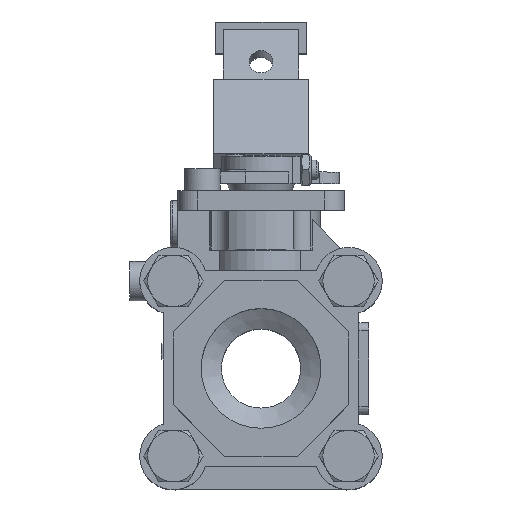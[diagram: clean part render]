
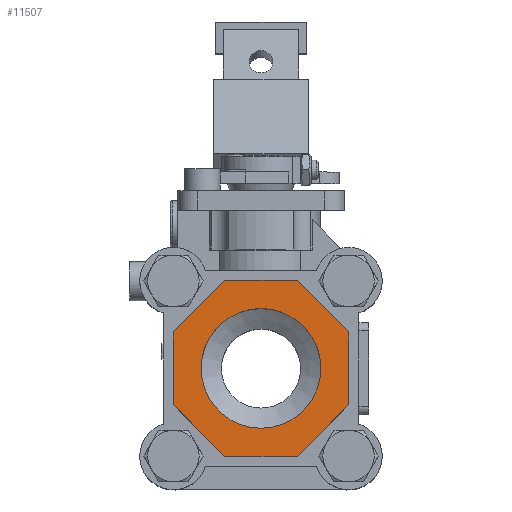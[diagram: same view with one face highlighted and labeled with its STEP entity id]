
A CAD part, top view. The second image highlights one B-rep face of the part: STEP entity #11507.
In plain terms, the highlighted planar face has unit normal (0, 0, 1).
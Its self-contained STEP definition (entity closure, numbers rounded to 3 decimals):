
#372=FACE_BOUND('',#1957,.T.);
#579=PLANE('',#12316);
#1276=FACE_OUTER_BOUND('',#1956,.T.);
#1956=EDGE_LOOP('',(#8953,#8954,#8955,#8956,#8957,#8958,#8959,#8960));
#1957=EDGE_LOOP('',(#8961,#8962));
#2597=CIRCLE('',#12306,15.146);
#2598=CIRCLE('',#12307,15.146);
#3337=LINE('',#18155,#4315);
#3339=LINE('',#18159,#4317);
#3341=LINE('',#18163,#4319);
#3343=LINE('',#18167,#4321);
#3345=LINE('',#18171,#4323);
#3347=LINE('',#18175,#4325);
#3349=LINE('',#18179,#4327);
#3351=LINE('',#18182,#4329);
#4315=VECTOR('',#14211,10.);
#4317=VECTOR('',#14215,10.);
#4319=VECTOR('',#14219,10.);
#4321=VECTOR('',#14223,10.);
#4323=VECTOR('',#14227,10.);
#4325=VECTOR('',#14231,10.);
#4327=VECTOR('',#14235,10.);
#4329=VECTOR('',#14239,10.);
#5355=VERTEX_POINT('',#18146);
#5356=VERTEX_POINT('',#18148);
#5357=VERTEX_POINT('',#18152);
#5358=VERTEX_POINT('',#18154);
#5359=VERTEX_POINT('',#18158);
#5360=VERTEX_POINT('',#18162);
#5361=VERTEX_POINT('',#18166);
#5362=VERTEX_POINT('',#18170);
#5363=VERTEX_POINT('',#18174);
#5364=VERTEX_POINT('',#18178);
#6671=EDGE_CURVE('',#5356,#5355,#2597,.T.);
#6672=EDGE_CURVE('',#5355,#5356,#2598,.T.);
#6674=EDGE_CURVE('',#5358,#5357,#3337,.T.);
#6676=EDGE_CURVE('',#5359,#5358,#3339,.T.);
#6678=EDGE_CURVE('',#5360,#5359,#3341,.T.);
#6680=EDGE_CURVE('',#5361,#5360,#3343,.T.);
#6682=EDGE_CURVE('',#5362,#5361,#3345,.T.);
#6684=EDGE_CURVE('',#5363,#5362,#3347,.T.);
#6686=EDGE_CURVE('',#5364,#5363,#3349,.T.);
#6688=EDGE_CURVE('',#5357,#5364,#3351,.T.);
#8953=ORIENTED_EDGE('',*,*,#6688,.T.);
#8954=ORIENTED_EDGE('',*,*,#6686,.T.);
#8955=ORIENTED_EDGE('',*,*,#6684,.T.);
#8956=ORIENTED_EDGE('',*,*,#6682,.T.);
#8957=ORIENTED_EDGE('',*,*,#6680,.T.);
#8958=ORIENTED_EDGE('',*,*,#6678,.T.);
#8959=ORIENTED_EDGE('',*,*,#6676,.T.);
#8960=ORIENTED_EDGE('',*,*,#6674,.T.);
#8961=ORIENTED_EDGE('',*,*,#6671,.T.);
#8962=ORIENTED_EDGE('',*,*,#6672,.T.);
#11507=ADVANCED_FACE('',(#1276,#372),#579,.T.);
#12306=AXIS2_PLACEMENT_3D('',#18149,#14204,#14205);
#12307=AXIS2_PLACEMENT_3D('',#18150,#14206,#14207);
#12316=AXIS2_PLACEMENT_3D('',#18183,#14240,#14241);
#14204=DIRECTION('center_axis',(0.,0.,
-1.));
#14205=DIRECTION('ref_axis',(0.,1.,0.));
#14206=DIRECTION('center_axis',(0.,0.,
-1.));
#14207=DIRECTION('ref_axis',(0.,1.,0.));
#14211=DIRECTION('',(1.,0.,0.));
#14215=DIRECTION('',(0.707,-0.707,0.));
#14219=DIRECTION('',(0.,-1.,0.));
#14223=DIRECTION('',(-0.707,-0.707,0.));
#14227=DIRECTION('',(-1.,0.,0.));
#14231=DIRECTION('',(-0.707,0.707,0.));
#14235=DIRECTION('',(0.,1.,0.));
#14239=DIRECTION('',(0.707,0.707,0.));
#14240=DIRECTION('center_axis',(0.,0.,
1.));
#14241=DIRECTION('ref_axis',(0.,1.,0.));
#18146=CARTESIAN_POINT('',(9.407,-26.879,48.3));
#18148=CARTESIAN_POINT('',(9.407,3.412,48.3));
#18149=CARTESIAN_POINT('Origin',(9.407,-11.734,48.3));
#18150=CARTESIAN_POINT('Origin',(9.407,-11.734,48.3));
#18152=CARTESIAN_POINT('',(18.624,-33.984,48.3));
#18154=CARTESIAN_POINT('',(0.191,-33.984,48.3));
#18155=CARTESIAN_POINT('',(18.624,-33.984,48.3));
#18158=CARTESIAN_POINT('',(-12.843,-20.95,48.3));
#18159=CARTESIAN_POINT('',(0.191,-33.984,48.3));
#18162=CARTESIAN_POINT('',(-12.843,-2.517,48.3));
#18163=CARTESIAN_POINT('',(-12.843,-20.95,48.3));
#18166=CARTESIAN_POINT('',(0.191,10.516,48.3));
#18167=CARTESIAN_POINT('',(-12.843,-2.517,48.3));
#18170=CARTESIAN_POINT('',(18.624,10.516,48.3));
#18171=CARTESIAN_POINT('',(0.191,10.516,48.3));
#18174=CARTESIAN_POINT('',(31.657,-2.517,48.3));
#18175=CARTESIAN_POINT('',(18.624,10.516,48.3));
#18178=CARTESIAN_POINT('',(31.657,-20.95,48.3));
#18179=CARTESIAN_POINT('',(31.657,-2.517,48.3));
#18182=CARTESIAN_POINT('',(31.657,-20.95,48.3));
#18183=CARTESIAN_POINT('Origin',(9.407,-11.734,48.3));
